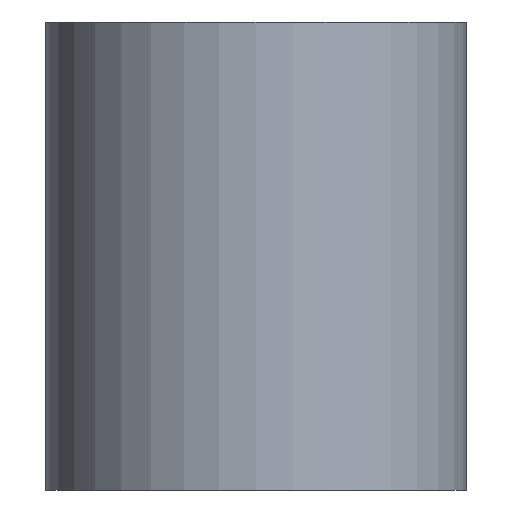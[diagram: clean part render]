
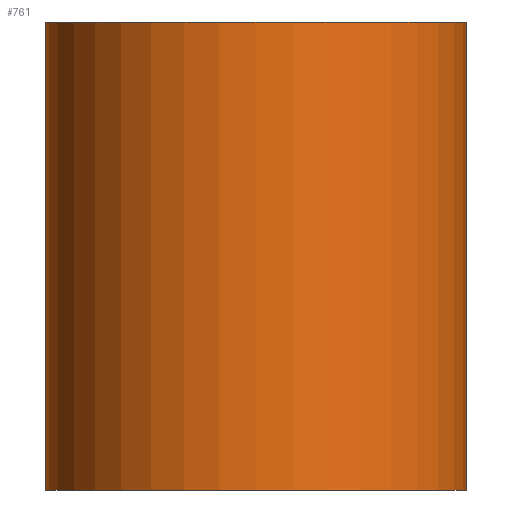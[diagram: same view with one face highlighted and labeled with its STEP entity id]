
A CAD part, left-side view. The second image highlights one B-rep face of the part: STEP entity #761.
In plain terms, the highlighted cylindrical face has radius 3.6 mm (diameter 7.2 mm), a partial arc.
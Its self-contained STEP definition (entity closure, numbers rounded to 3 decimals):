
#36=LINE('',#1175,#96);
#37=LINE('',#1179,#97);
#96=VECTOR('',#920,1000.);
#97=VECTOR('',#923,1000.);
#156=ORIENTED_EDGE('',*,*,#384,.F.);
#157=ORIENTED_EDGE('',*,*,#385,.F.);
#158=ORIENTED_EDGE('',*,*,#386,.T.);
#159=ORIENTED_EDGE('',*,*,#387,.T.);
#384=EDGE_CURVE('',#498,#499,#576,.T.);
#385=EDGE_CURVE('',#500,#498,#36,.T.);
#386=EDGE_CURVE('',#500,#501,#577,.T.);
#387=EDGE_CURVE('',#501,#499,#37,.T.);
#498=VERTEX_POINT('',#1173);
#499=VERTEX_POINT('',#1174);
#500=VERTEX_POINT('',#1176);
#501=VERTEX_POINT('',#1178);
#576=CIRCLE('',#818,3.6);
#577=CIRCLE('',#819,3.6);
#630=EDGE_LOOP('',(#156,#157,#158,#159));
#682=FACE_BOUND('',#630,.T.);
#734=CYLINDRICAL_SURFACE('',#817,3.6);
#761=ADVANCED_FACE('',(#682),#734,.T.);
#817=AXIS2_PLACEMENT_3D('',#1171,#916,#917);
#818=AXIS2_PLACEMENT_3D('',#1172,#918,#919);
#819=AXIS2_PLACEMENT_3D('',#1177,#921,#922);
#916=DIRECTION('',(0.,0.,-1.));
#917=DIRECTION('',(-1.,0.,0.));
#918=DIRECTION('',(0.,0.,-1.));
#919=DIRECTION('',(1.,0.,0.));
#920=DIRECTION('',(0.,0.,-1.));
#921=DIRECTION('',(0.,0.,-1.));
#922=DIRECTION('',(1.,0.,0.));
#923=DIRECTION('',(0.,0.,-1.));
#1171=CARTESIAN_POINT('',(-4.,0.,8.));
#1172=CARTESIAN_POINT('',(-4.,0.,0.));
#1173=CARTESIAN_POINT('',(-4.,-3.6,0.));
#1174=CARTESIAN_POINT('',(-4.,3.6,0.));
#1175=CARTESIAN_POINT('',(-4.,-3.6,8.));
#1176=CARTESIAN_POINT('',(-4.,-3.6,8.));
#1177=CARTESIAN_POINT('',(-4.,0.,8.));
#1178=CARTESIAN_POINT('',(-4.,3.6,8.));
#1179=CARTESIAN_POINT('',(-4.,3.6,8.));
